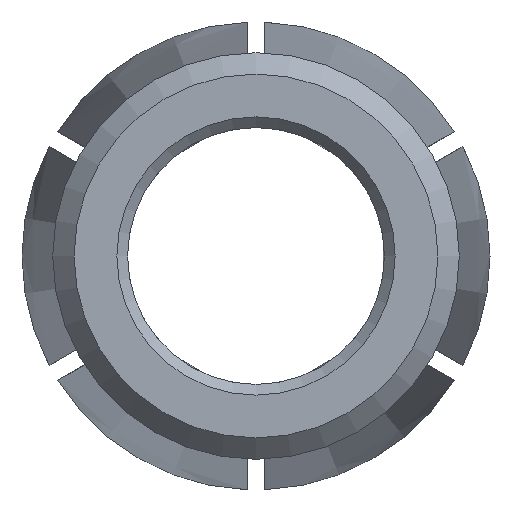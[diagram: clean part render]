
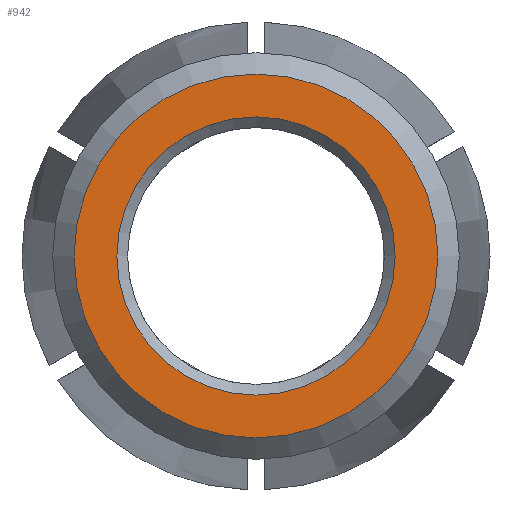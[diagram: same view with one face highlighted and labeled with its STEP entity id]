
A CAD part, front view. The second image highlights one B-rep face of the part: STEP entity #942.
In plain terms, the highlighted planar face has unit normal (0, -1, 0).
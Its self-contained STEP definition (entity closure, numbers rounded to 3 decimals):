
#24=FACE_BOUND('',#268,.T.);
#180=PLANE('',#1044);
#218=FACE_OUTER_BOUND('',#267,.T.);
#267=EDGE_LOOP('',(#742));
#268=EDGE_LOOP('',(#743));
#319=CIRCLE('',#1042,6.5);
#321=CIRCLE('',#1045,8.5);
#426=VERTEX_POINT('',#1696);
#428=VERTEX_POINT('',#1702);
#550=EDGE_CURVE('',#426,#426,#319,.T.);
#553=EDGE_CURVE('',#428,#428,#321,.T.);
#742=ORIENTED_EDGE('',*,*,#553,.F.);
#743=ORIENTED_EDGE('',*,*,#550,.F.);
#942=ADVANCED_FACE('',(#218,#24),#180,.F.);
#1042=AXIS2_PLACEMENT_3D('',#1697,#1225,#1226);
#1044=AXIS2_PLACEMENT_3D('',#1701,#1230,#1231);
#1045=AXIS2_PLACEMENT_3D('',#1703,#1232,#1233);
#1225=DIRECTION('center_axis',(0.,-1.,0.));
#1226=DIRECTION('ref_axis',(1.,0.,0.));
#1230=DIRECTION('center_axis',(0.,1.,0.));
#1231=DIRECTION('ref_axis',(0.,0.,1.));
#1232=DIRECTION('center_axis',(0.,1.,0.));
#1233=DIRECTION('ref_axis',(1.,0.,0.));
#1696=CARTESIAN_POINT('',(-6.5,0.,0.));
#1697=CARTESIAN_POINT('Origin',(0.,0.,0.));
#1701=CARTESIAN_POINT('Origin',(0.,0.,0.));
#1702=CARTESIAN_POINT('',(-8.5,0.,0.));
#1703=CARTESIAN_POINT('Origin',(0.,0.,0.));
